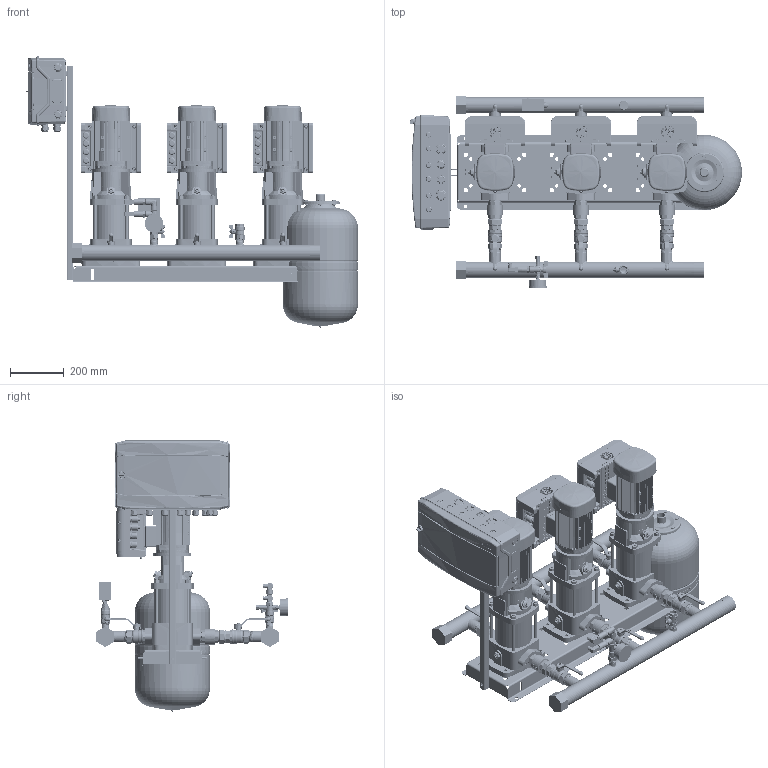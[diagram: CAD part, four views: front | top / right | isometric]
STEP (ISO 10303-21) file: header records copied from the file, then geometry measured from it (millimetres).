
FILE_DESCRIPTION(('CATIA V5 STEP Exchange','CAx-IF Rec.Pracs.--- Model Styling and Organization---1.4--- 2014-01-23','CAx-IF Rec.Pracs.---3D Tessellated Data Validation Properties---0.5---2014-09-14'),'2;1');
FILE_NAME('C:\Users\78432\YandexDisk\Drawings and 3D\3D Hydro Booster\Hydro-ME 3D\Hydro Models\Hydro ME 3 CRV3-xx\Hydro ME 3 CRVE3-9.stp','2023-09-21T08:57:00+00:00',('none'),('none'),'CATIA Version 5-6 Release 2019 SP6','CATIA V5 STEP AP242 v1','none');
FILE_SCHEMA(('AP242_MANAGED_MODEL_BASED_3D_ENGINEERING_MIM_LF {1 0 10303 442 1 1 4}'));
Products named in the file (46): Hydro ME 3 CRVE3-9; 92051012; CRV3-9 Set; CRV 3-9_A_Oval_0.75kW; Base; Flange.1; Flange.2; Sleeve; Pumphead; Staybolt_1; Staybolt_2; Staybolt_3; Staybolt_4; Plug; AirVent; Motor; 92807543_9022-04; Hydraulica NY DN32 1,25 PN16; DN32_FM_LV_47.303.32; 92814060_9013-04; SAJ PDH30 0,75-2,2kW; 97941451; 405801; 91040265; 91040272; 97941488; 00ID7526; Holder and CP 18mod; 92878909; Control ME (18mod); 2 sensors + manometer cpl.; manometr 16 bar; RPD-I-G1_2; 9021-01; 2070 1/2-1/2; _2020 1/2-1/2; 98594078; Tank 24L cpl.; DN20_FF_BF_47.300.20; WAV-24(D140 1'')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
Assembly tree (55 placements, depth 4):
  Hydro ME 3 CRVE3-9
    92051012
    CRV3-9 Set  x3
      CRV 3-9_A_Oval_0.75kW
        Base
        Flange.1
        Flange.2
        Sleeve
        Pumphead
        Staybolt_1
        Staybolt_2
        Staybolt_3
        Staybolt_4
        Plug
        AirVent
        Motor
      92807543_9022-04
      Hydraulica NY DN32 1,25 PN16
      DN32_FM_LV_47.303.32
      92814060_9013-04
      SAJ PDH30 0,75-2,2kW
    97941451  x2
      405801
      91040265
      91040272
      97941488
    00ID7526  x2
    Holder and CP 18mod
      92878909
      Control ME (18mod)
    2 sensors + manometer cpl.
      manometr 16 bar
      RPD-I-G1_2  x2
      9021-01
      2070 1/2-1/2
      _2020 1/2-1/2
      98594078
    Tank 24L cpl.
      DN20_FF_BF_47.300.20
      9021-03
    Relay cpl.
      Relay RD-2R
      DN20_FF_BF_47.300.20
      2530 3/4-1/2
      _2530 1/2-1/4
    91078139
  WAV-24(D140 1'')
Bounding box: 1236.82 x 712 x 1009.9 mm (x, y, z)
Volume: 60567350.7 mm3; surface area: 7032519.8 mm2
Topology: 221 solids, 260 shells, 26113 faces, 76411 edges, 51219 vertices
Faces by surface type: plane 11517, cylinder 6443, bspline 5781, cone 1775, torus 432, sphere 165
Entity records: 563431 total; most frequent: CARTESIAN_POINT 277077, ORIENTED_EDGE 73173, EDGE_CURVE 37068, DIRECTION 34573, VERTEX_POINT 24708, VECTOR 16146, LINE 16146, EDGE_LOOP 14414
